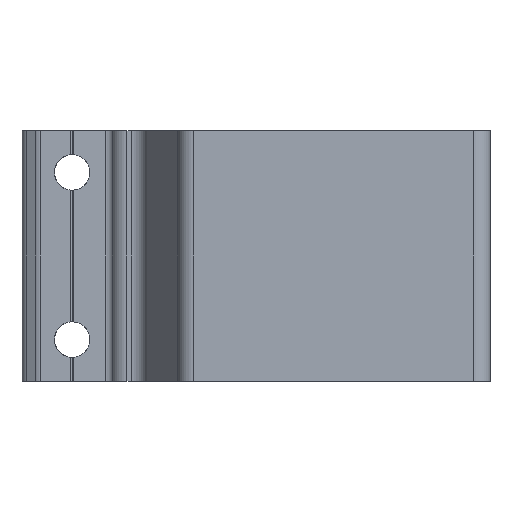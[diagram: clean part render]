
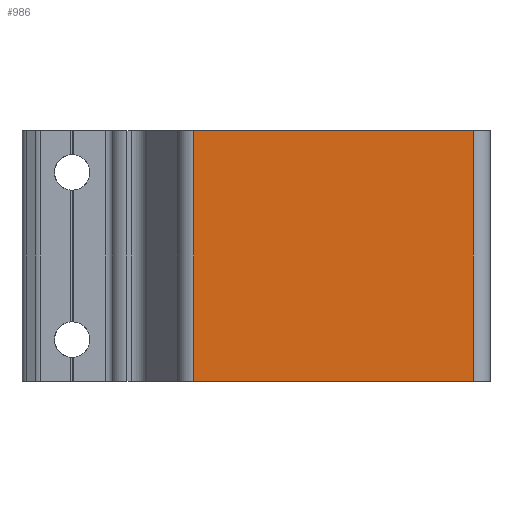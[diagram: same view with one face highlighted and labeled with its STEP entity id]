
A CAD part, left-side view. The second image highlights one B-rep face of the part: STEP entity #986.
In plain terms, the highlighted planar face has unit normal (-1, 0, 0).
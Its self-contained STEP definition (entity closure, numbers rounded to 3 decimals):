
#34=PLANE('',#1089);
#73=FACE_OUTER_BOUND('',#122,.T.);
#122=EDGE_LOOP('',(#771,#772,#773,#774));
#210=LINE('',#1601,#307);
#211=LINE('',#1605,#308);
#212=LINE('',#1607,#309);
#213=LINE('',#1608,#310);
#307=VECTOR('',#1297,10.);
#308=VECTOR('',#1302,10.);
#309=VECTOR('',#1303,10.);
#310=VECTOR('',#1304,10.);
#455=VERTEX_POINT('',#1598);
#456=VERTEX_POINT('',#1600);
#457=VERTEX_POINT('',#1604);
#458=VERTEX_POINT('',#1606);
#580=EDGE_CURVE('',#456,#455,#210,.T.);
#582=EDGE_CURVE('',#455,#457,#211,.T.);
#583=EDGE_CURVE('',#458,#457,#212,.T.);
#584=EDGE_CURVE('',#456,#458,#213,.T.);
#771=ORIENTED_EDGE('',*,*,#582,.T.);
#772=ORIENTED_EDGE('',*,*,#583,.F.);
#773=ORIENTED_EDGE('',*,*,#584,.F.);
#774=ORIENTED_EDGE('',*,*,#580,.T.);
#986=ADVANCED_FACE('',(#73),#34,.T.);
#1089=AXIS2_PLACEMENT_3D('',#1603,#1300,#1301);
#1297=DIRECTION('',(0.,0.,1.));
#1300=DIRECTION('center_axis',(-1.,0.,0.));
#1301=DIRECTION('ref_axis',(0.,0.,1.));
#1302=DIRECTION('',(0.,1.,0.));
#1303=DIRECTION('',(0.,0.,1.));
#1304=DIRECTION('',(0.,1.,0.));
#1598=CARTESIAN_POINT('',(-187.074,-214.607,60.));
#1600=CARTESIAN_POINT('',(-187.074,-214.607,0.));
#1601=CARTESIAN_POINT('',(-187.074,-214.607,0.));
#1603=CARTESIAN_POINT('Origin',(-187.074,-214.607,0.));
#1604=CARTESIAN_POINT('',(-187.074,-147.767,60.));
#1605=CARTESIAN_POINT('',(-187.074,-214.607,60.));
#1606=CARTESIAN_POINT('',(-187.074,-147.767,0.));
#1607=CARTESIAN_POINT('',(-187.074,-147.767,0.));
#1608=CARTESIAN_POINT('',(-187.074,-214.607,0.));
